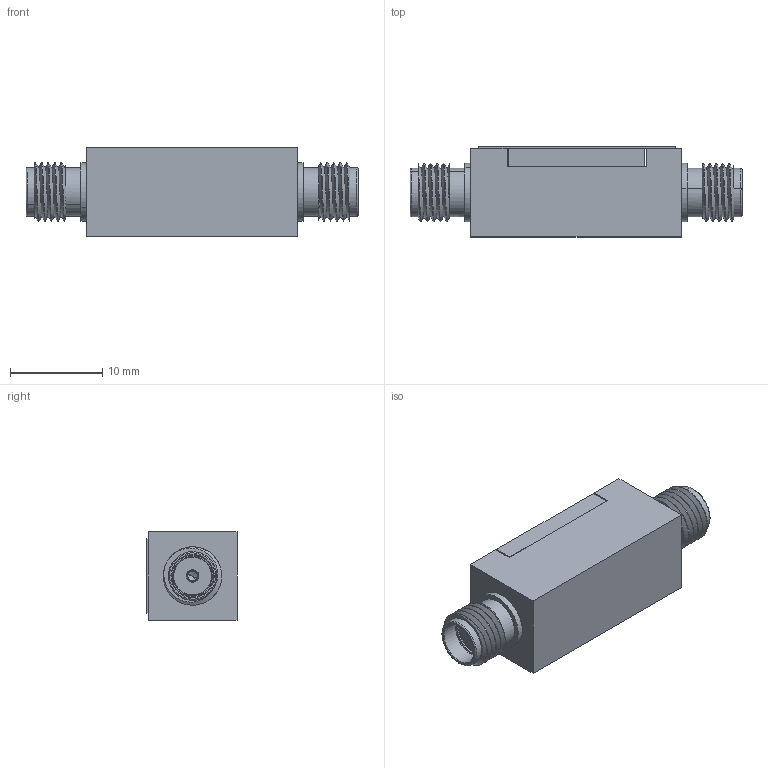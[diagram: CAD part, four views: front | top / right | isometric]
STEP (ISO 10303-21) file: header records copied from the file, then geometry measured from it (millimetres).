
FILE_DESCRIPTION (( 'STEP AP214' ), '1' );
FILE_NAME ('LM-20M3G-100W-15DBM-SFF-PM.STEP', '2024-01-11T22:01:57', ( '' ), ( '' ), 'SwSTEP 2.0', 'SolidWorks 2023', '' );
FILE_SCHEMA (( 'AUTOMOTIVE_DESIGN' ));
Length unit declared in the file: inch
Products named in the file (1): LM-20M3G-100W-15DBM-SFF-PM
Bounding box: 36.07 x 9.78 x 9.65 mm (x, y, z)
Volume: 2213.1 mm3; surface area: 3164.5 mm2
Topology: 13 solids, 15 shells, 1476 faces, 5387 edges, 4073 vertices
Faces by surface type: cylinder 637, torus 420, plane 343, cone 72, bspline 4
Entity records: 74841 total; most frequent: CARTESIAN_POINT 28561, ORIENTED_EDGE 10726, DIRECTION 8752, EDGE_CURVE 5363, VERTEX_POINT 4073, AXIS2_PLACEMENT_3D 3172, LINE 2408, VECTOR 2408
